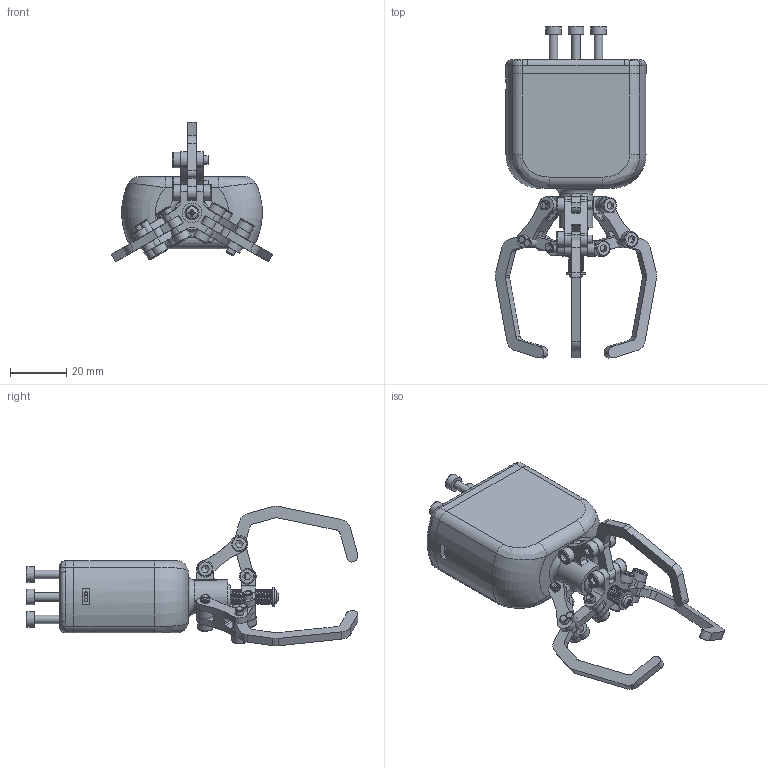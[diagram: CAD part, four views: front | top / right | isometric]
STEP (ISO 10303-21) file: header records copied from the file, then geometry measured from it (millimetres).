
FILE_DESCRIPTION(/* description */ ('','CAx-IF Rec.Pracs.---Representation and Presentation of Product Manufacturing Information (PMI)---4.0---2014-10-13'),/* implementation_level */ '2;1');
FILE_NAME(/* name */ 'Assieme_mini_pinza_vite2.stp',/* time_stamp */ '2026-05-28T17:43:48+02:00',/* author */ ('R5800u'),/* organization */ (''),/* preprocessor_version */ 'ST-DEVELOPER v20',/* originating_system */ 'Autodesk Inventor 2025',/* authorisation */ '');
FILE_SCHEMA (('AP242_MANAGED_MODEL_BASED_3D_ENGINEERING_MIM_LF { 1 0 10303 442 1 1 4 }'));
Products named in the file (16): Assieme_mini_pinza_vite; Parte1; vite; vite3; dado; Parte4; Parte2; AS 1420 - 1973 - M3 x 10; AS 1427 - M2,5 x 5; rondella; MG90_ldb_v2; RCXAZ_9g doppio; chiusura_frame; AS 1427 - M2,5 x 10; AS 1112 - M3  Tipo 5; AS 1420 - 1973 - M3 x 14
Assembly tree (40 placements, depth 2):
  Assieme_mini_pinza_vite
    Parte1
    AS 1420 - 1973 - M3 x 10  x13
    vite
    vite3
    dado
    Parte4  x3
    Parte2  x3
    AS 1427 - M2,5 x 5
    rondella
    MG90_ldb_v2
    RCXAZ_9g doppio
    chiusura_frame
    AS 1427 - M2,5 x 10  x4
    AS 1112 - M3  Tipo 5  x4
    AS 1420 - 1973 - M3 x 14  x4
Bounding box: 57.4 x 118.07 x 49.71 mm (x, y, z)
Volume: 42049.4 mm3; surface area: 33283.9 mm2
Topology: 40 solids, 40 shells, 1238 faces, 3273 edges, 2155 vertices
Faces by surface type: plane 636, cylinder 382, cone 127, torus 76, bspline 16, sphere 1
Full cylindrical faces by diameter (mm): 1.167 x3, 1.2 x4, 1.5 x4, 1.8 x2, 1.948 x4, 2.2 x2, 2.224 x1, 2.459 x4, 2.5 x7, 2.7 x8, 3 x18, 3.2 x28, 3.5 x1, 4.744 x14, 4.75 x1, 5 x2, 5.2 x4, 5.3 x4, 5.5 x33, 6.147 x4, 6.8 x1, 7 x1, 9 x1, 9.2 x1, 12 x1
Entity records: 44360 total; most frequent: CARTESIAN_POINT 22168, DIRECTION 4463, ORIENTED_EDGE 4382, EDGE_CURVE 2191, AXIS2_PLACEMENT_3D 1602, VERTEX_POINT 1454, LINE 1259, VECTOR 1259
